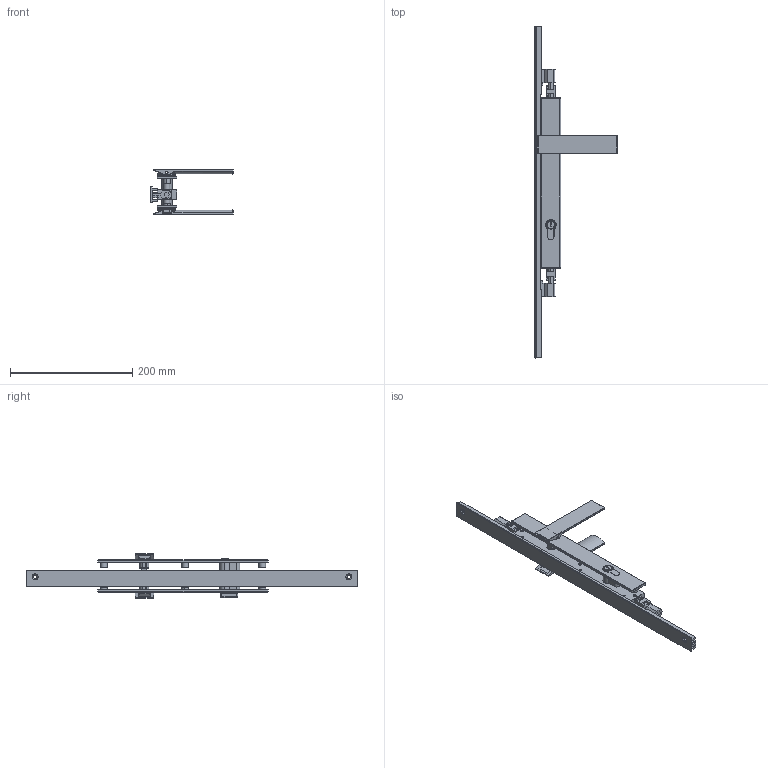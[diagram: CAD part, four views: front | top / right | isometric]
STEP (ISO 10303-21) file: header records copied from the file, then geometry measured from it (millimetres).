
FILE_DESCRIPTION (( 'STEP AP214' ), '1' );
FILE_NAME ('TPL-W-503-U 19July2024.STEP', '2024-12-04T23:57:47', ( '' ), ( '' ), 'SwSTEP 2.0', 'SolidWorks 2023', '' );
FILE_SCHEMA (( 'AUTOMOTIVE_DESIGN' ));
Length unit declared in the file: millimetre
Products named in the file (21): Copy of Handle sub-assembly - simplified^Copy of TPGen2 handle keyed internal - simplified_TPL-W-003 19July2024; Copy of Escutcheon plate keyed external 280mm - simplified^Copy of TPGen2 handle keyed external - simplified_TPL-W-003 19July2024; Copy of Adapter CnE - simplfied^TPL-W-003 19July2024_26mm backset; Copy of TPGen2 handle keyed internal - simplified^TPL-W-003 19July2024_Left; Copy of Adapter DnF - simplfied^TPL-W-003 19July2024_26mm backset; TPL-W-503-U 19July2024; Copy of LKC-547 Spindle - simplified^Copy of TPGen2 handle keyed internal - simplified_TPL-W-003 19July2024_A - 11mm; Copy of Copy of LKC-531 Lock twinpoint transmission rod wood system^TPL-W-003 19July2024_Standard Range 2891.7mm; Copy (2) of COV-112-B Cover B suit TPLGen2 standard range^TPL-W-003 19July2024_2870mm; Copy of TPL-019 Lock cylinder suit 1.75 inch panel^TPL-W-003 19July2024; Copy of Copy of Copy of LKC-531 Lock twinpoint transmission rod wood system^TPL-W-003 19July2024_Standard Range 2891.7mm; Copy of TPLGen2 lock body keyed assembly^TPL-W-003 19July2024_Bolts retracted; Copy of TPLGen2 lock body keyed^Copy of TPLGen2 lock body keyed assembly_TPL-W-003 19July2024; Copy of Handle sub-assembly - simplified^Copy of TPGen2 handle keyed external - simplified_TPL-W-003 19July2024; Copy of TPLGen2 push rod - simplified^Copy of TPLGen2 lock body keyed assembly_TPL-W-003 19July2024_Female thread M10; Copy of TPGen2 handle keyed external - simplified^TPL-W-003 19July2024_Right; Copy of COV-112-C Cover C TPLGen2 Lock body^TPL-W-003 19July2024; Copy of COV-112-A Cover A suit TPLGen2 standard range^TPL-W-003 19July2024_2870mm; Bolt.step; Copy of LKC-547 Spindle - simplified^Copy of TPGen2 handle keyed external - simplified_TPL-W-003 19July2024_E - 19mm; Copy of Escutcheon plate keyed internal 280mm - simplified^Copy of TPGen2 handle keyed internal - simplified_TPL-W-003 19July2024
Assembly tree (18 placements, depth 3):
  TPL-W-503-U 19July2024
    Copy of TPLGen2 lock body keyed assembly^TPL-W-003 19July2024_Bolts retracted
      Copy of TPLGen2 lock body keyed^Copy of TPLGen2 lock body keyed assembly_TPL-W-003 19July2024
      Copy of TPLGen2 push rod - simplified^Copy of TPLGen2 lock body keyed assembly_TPL-W-003 19July2024_Female thread M10  x2
    Copy of TPGen2 handle keyed internal - simplified^TPL-W-003 19July2024_Left
      Copy of Escutcheon plate keyed internal 280mm - simplified^Copy of TPGen2 handle keyed internal - simplified_TPL-W-003 19July2024
      Copy of Handle sub-assembly - simplified^Copy of TPGen2 handle keyed internal - simplified_TPL-W-003 19July2024
      Copy of LKC-547 Spindle - simplified^Copy of TPGen2 handle keyed internal - simplified_TPL-W-003 19July2024_A - 11mm
    Copy of TPGen2 handle keyed external - simplified^TPL-W-003 19July2024_Right
      Copy of Escutcheon plate keyed external 280mm - simplified^Copy of TPGen2 handle keyed external - simplified_TPL-W-003 19July2024
      Copy of Handle sub-assembly - simplified^Copy of TPGen2 handle keyed external - simplified_TPL-W-003 19July2024
      Copy of LKC-547 Spindle - simplified^Copy of TPGen2 handle keyed external - simplified_TPL-W-003 19July2024_E - 19mm
    Copy of TPL-019 Lock cylinder suit 1.75 inch panel^TPL-W-003 19July2024
    Copy of COV-112-C Cover C TPLGen2 Lock body^TPL-W-003 19July2024
    Copy of Copy of LKC-531 Lock twinpoint transmission rod wood system^TPL-W-003 19July2024_Standard Range 2891.7mm
    Copy of Copy of Copy of LKC-531 Lock twinpoint transmission rod wood system^TPL-W-003 19July2024_Standard Range 2891.7mm
    Copy of Adapter CnE - simplfied^TPL-W-003 19July2024_26mm backset
    Copy of Adapter DnF - simplfied^TPL-W-003 19July2024_26mm backset
  Copy (2) of COV-112-B Cover B suit TPLGen2 standard range^TPL-W-003 19July2024_2870mm
  Copy of COV-112-A Cover A suit TPLGen2 standard range^TPL-W-003 19July2024_2870mm
  Bolt.step
Bounding box: 134.5 x 544 x 73.59 mm (x, y, z)
Volume: 357083 mm3; surface area: 177005.4 mm2
Topology: 17 solids, 20 shells, 1089 faces, 2762 edges, 1725 vertices
Faces by surface type: cylinder 451, plane 422, bspline 89, torus 68, cone 35, sphere 24
Entity records: 33361 total; most frequent: CARTESIAN_POINT 7269, DIRECTION 5470, ORIENTED_EDGE 5272, EDGE_CURVE 2636, AXIS2_PLACEMENT_3D 2050, VERTEX_POINT 1665, VECTOR 1370, LINE 1370
